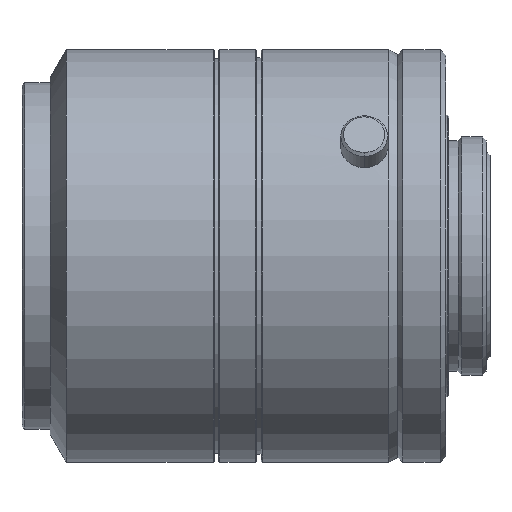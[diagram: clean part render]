
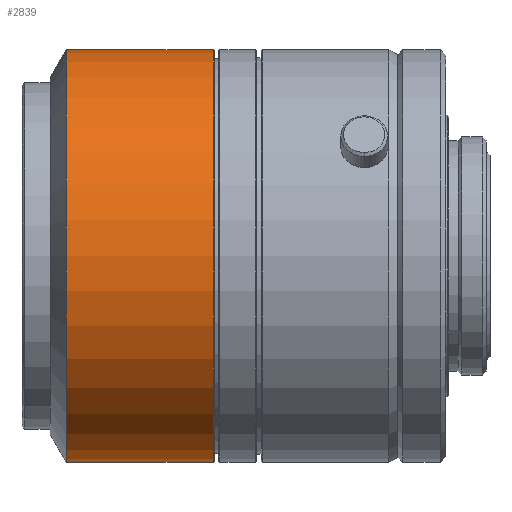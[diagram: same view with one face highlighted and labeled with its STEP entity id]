
A CAD part, top view. The second image highlights one B-rep face of the part: STEP entity #2839.
In plain terms, the highlighted cylindrical face has radius 22 mm (diameter 44 mm), a partial arc.
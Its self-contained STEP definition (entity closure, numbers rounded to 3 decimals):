
#259 = AXIS2_PLACEMENT_3D ( 'NONE', #1547, #1545, #1543 ) ;
#347 = AXIS2_PLACEMENT_3D ( 'NONE', #745, #746, #747 ) ;
#348 = AXIS2_PLACEMENT_3D ( 'NONE', #751, #752, #753 ) ;
#657 = VERTEX_POINT ( 'NONE', #2130 ) ;
#662 = VERTEX_POINT ( 'NONE', #2119 ) ;
#667 = VERTEX_POINT ( 'NONE', #2126 ) ;
#669 = VERTEX_POINT ( 'NONE', #2098 ) ;
#743 = CARTESIAN_POINT ( 'NONE',  ( 0., -22., 0. ) ) ;
#745 = CARTESIAN_POINT ( 'NONE',  ( -58.294, 0., 0. ) ) ;
#746 = DIRECTION ( 'NONE',  ( 1., 0., 0. ) ) ;
#747 = DIRECTION ( 'NONE',  ( 0., 1., 0. ) ) ;
#748 = DIRECTION ( 'NONE',  ( 1., 0., 0. ) ) ;
#749 = DIRECTION ( 'NONE',  ( 1., 0., 0. ) ) ;
#750 = CARTESIAN_POINT ( 'NONE',  ( 0., 22., 0. ) ) ;
#751 = CARTESIAN_POINT ( 'NONE',  ( -42.626, 0., 0. ) ) ;
#752 = DIRECTION ( 'NONE',  ( 1., 0., 0. ) ) ;
#753 = DIRECTION ( 'NONE',  ( 0., 1., 0. ) ) ;
#1543 = DIRECTION ( 'NONE',  ( 0., 1., 0. ) ) ;
#1545 = DIRECTION ( 'NONE',  ( 1., 0., 0. ) ) ;
#1547 = CARTESIAN_POINT ( 'NONE',  ( 0., 0., 0. ) ) ;
#1615 = EDGE_CURVE ( 'NONE', #657, #662, #2516, .T. ) ;
#1617 = EDGE_CURVE ( 'NONE', #662, #669, #2518, .T. ) ;
#1618 = EDGE_CURVE ( 'NONE', #667, #669, #2521, .T. ) ;
#1619 = EDGE_CURVE ( 'NONE', #657, #667, #2519, .T. ) ;
#1951 = ORIENTED_EDGE ( 'NONE', *, *, #1615, .T. ) ;
#1952 = ORIENTED_EDGE ( 'NONE', *, *, #1617, .T. ) ;
#1954 = ORIENTED_EDGE ( 'NONE', *, *, #1619, .F. ) ;
#1955 = ORIENTED_EDGE ( 'NONE', *, *, #1618, .F. ) ;
#2098 = CARTESIAN_POINT ( 'NONE',  ( -42.626, -22., 0. ) ) ;
#2119 = CARTESIAN_POINT ( 'NONE',  ( -58.294, -22., 0. ) ) ;
#2126 = CARTESIAN_POINT ( 'NONE',  ( -42.626, 22., 0. ) ) ;
#2130 = CARTESIAN_POINT ( 'NONE',  ( -58.294, 22., 0. ) ) ;
#2516 = CIRCLE ( 'NONE', #347, 22. ) ;
#2518 = LINE ( 'NONE', #743, #2522 ) ;
#2519 = LINE ( 'NONE', #750, #2525 ) ;
#2521 = CIRCLE ( 'NONE', #348, 22. ) ;
#2522 = VECTOR ( 'NONE', #749, 1000. ) ;
#2525 = VECTOR ( 'NONE', #748, 1000. ) ;
#2737 = EDGE_LOOP ( 'NONE', ( #1951, #1952, #1955, #1954 ) ) ;
#2839 = ADVANCED_FACE ( 'NONE', ( #3024 ), #3026, .T. ) ;
#3024 = FACE_OUTER_BOUND ( 'NONE', #2737, .T. ) ;
#3026 = CYLINDRICAL_SURFACE ( 'NONE', #259, 22. ) ;
